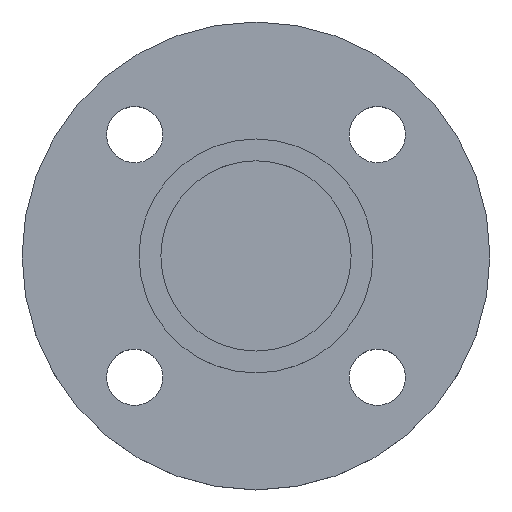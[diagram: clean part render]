
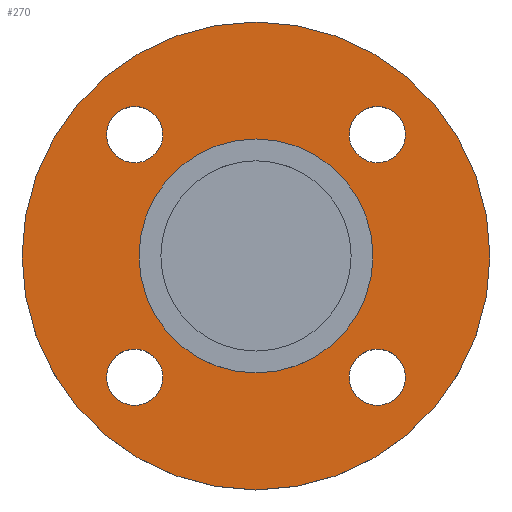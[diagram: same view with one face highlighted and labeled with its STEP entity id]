
A CAD part, top view. The second image highlights one B-rep face of the part: STEP entity #270.
In plain terms, the highlighted planar face has unit normal (0, 0, 1).
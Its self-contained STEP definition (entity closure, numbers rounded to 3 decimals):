
#2 = AXIS2_PLACEMENT_3D ( 'NONE', #412, #413, #415 ) ;
#5 = AXIS2_PLACEMENT_3D ( 'NONE', #389, #390, #391 ) ;
#6 = CIRCLE ( 'NONE', #279, 75. ) ;
#9 = EDGE_CURVE ( 'NONE', #192, #360, #110, .T. ) ;
#13 = EDGE_CURVE ( 'NONE', #283, #317, #21, .T. ) ;
#21 = CIRCLE ( 'NONE', #304, 9. ) ;
#39 = CARTESIAN_POINT ( 'NONE',  ( -38.891, 38.891, -4.5 ) ) ;
#40 = AXIS2_PLACEMENT_3D ( 'NONE', #327, #328, #331 ) ;
#42 = DIRECTION ( 'NONE',  ( 0., 0., -1. ) ) ;
#43 = DIRECTION ( 'NONE',  ( 1., 0., 0. ) ) ;
#49 = CARTESIAN_POINT ( 'NONE',  ( 47.891, -38.891, -4.5 ) ) ;
#50 = EDGE_CURVE ( 'NONE', #360, #192, #161, .T. ) ;
#52 = CARTESIAN_POINT ( 'NONE',  ( 37.5, 0., -4.5 ) ) ;
#60 = CARTESIAN_POINT ( 'NONE',  ( 47.891, 38.891, -4.5 ) ) ;
#70 = EDGE_CURVE ( 'NONE', #236, #217, #180, .T. ) ;
#72 = CARTESIAN_POINT ( 'NONE',  ( -29.891, 38.891, -4.5 ) ) ;
#78 = CARTESIAN_POINT ( 'NONE',  ( 0., 0., -4.5 ) ) ;
#79 = DIRECTION ( 'NONE',  ( 0., 0., -1. ) ) ;
#80 = DIRECTION ( 'NONE',  ( -1., 0., 0. ) ) ;
#93 = CIRCLE ( 'NONE', #40, 9. ) ;
#100 = AXIS2_PLACEMENT_3D ( 'NONE', #39, #42, #43 ) ;
#102 = CIRCLE ( 'NONE', #484, 37.5 ) ;
#107 = AXIS2_PLACEMENT_3D ( 'NONE', #117, #118, #120 ) ;
#108 = CIRCLE ( 'NONE', #100, 9. ) ;
#110 = CIRCLE ( 'NONE', #5, 9. ) ;
#117 = CARTESIAN_POINT ( 'NONE',  ( 0., 0., -4.5 ) ) ;
#118 = DIRECTION ( 'NONE',  ( 0., 0., -1. ) ) ;
#120 = DIRECTION ( 'NONE',  ( -1., 0., 0. ) ) ;
#126 = AXIS2_PLACEMENT_3D ( 'NONE', #480, #496, #497 ) ;
#128 = EDGE_CURVE ( 'NONE', #317, #283, #137, .T. ) ;
#134 = AXIS2_PLACEMENT_3D ( 'NONE', #467, #469, #470 ) ;
#137 = CIRCLE ( 'NONE', #148, 9. ) ;
#139 = AXIS2_PLACEMENT_3D ( 'NONE', #556, #557, #558 ) ;
#148 = AXIS2_PLACEMENT_3D ( 'NONE', #437, #438, #439 ) ;
#152 = AXIS2_PLACEMENT_3D ( 'NONE', #406, #407, #408 ) ;
#161 = CIRCLE ( 'NONE', #152, 9. ) ;
#163 = EDGE_CURVE ( 'NONE', #187, #372, #233, .T. ) ;
#177 = EDGE_CURVE ( 'NONE', #226, #367, #352, .T. ) ;
#179 = VERTEX_POINT ( 'NONE', #501 ) ;
#180 = CIRCLE ( 'NONE', #2, 75. ) ;
#187 = VERTEX_POINT ( 'NONE', #507 ) ;
#192 = VERTEX_POINT ( 'NONE', #514 ) ;
#217 = VERTEX_POINT ( 'NONE', #521 ) ;
#226 = VERTEX_POINT ( 'NONE', #526 ) ;
#233 = CIRCLE ( 'NONE', #134, 9. ) ;
#236 = VERTEX_POINT ( 'NONE', #539 ) ;
#245 = ORIENTED_EDGE ( 'NONE', *, *, #50, .T. ) ;
#246 = ORIENTED_EDGE ( 'NONE', *, *, #355, .T. ) ;
#247 = ORIENTED_EDGE ( 'NONE', *, *, #9, .T. ) ;
#248 = ORIENTED_EDGE ( 'NONE', *, *, #13, .T. ) ;
#249 = ORIENTED_EDGE ( 'NONE', *, *, #128, .T. ) ;
#250 = ORIENTED_EDGE ( 'NONE', *, *, #163, .T. ) ;
#251 = ORIENTED_EDGE ( 'NONE', *, *, #468, .T. ) ;
#253 = ORIENTED_EDGE ( 'NONE', *, *, #177, .T. ) ;
#255 = ORIENTED_EDGE ( 'NONE', *, *, #442, .T. ) ;
#257 = ORIENTED_EDGE ( 'NONE', *, *, #377, .T. ) ;
#258 = ORIENTED_EDGE ( 'NONE', *, *, #70, .F. ) ;
#259 = ORIENTED_EDGE ( 'NONE', *, *, #477, .F. ) ;
#270 = ADVANCED_FACE ( 'NONE', ( #548, #549, #550, #552, #553, #554 ), #555, .T. ) ;
#279 = AXIS2_PLACEMENT_3D ( 'NONE', #333, #336, #342 ) ;
#283 = VERTEX_POINT ( 'NONE', #570 ) ;
#294 = EDGE_LOOP ( 'NONE', ( #251, #253 ) ) ;
#304 = AXIS2_PLACEMENT_3D ( 'NONE', #392, #393, #394 ) ;
#307 = EDGE_LOOP ( 'NONE', ( #258, #259 ) ) ;
#317 = VERTEX_POINT ( 'NONE', #582 ) ;
#320 = EDGE_LOOP ( 'NONE', ( #255, #257 ) ) ;
#326 = EDGE_LOOP ( 'NONE', ( #246, #250 ) ) ;
#327 = CARTESIAN_POINT ( 'NONE',  ( 38.891, 38.891, -4.5 ) ) ;
#328 = DIRECTION ( 'NONE',  ( 0., 0., -1. ) ) ;
#330 = EDGE_LOOP ( 'NONE', ( #248, #249 ) ) ;
#331 = DIRECTION ( 'NONE',  ( 1., 0., 0. ) ) ;
#333 = CARTESIAN_POINT ( 'NONE',  ( 0., 0., -4.5 ) ) ;
#336 = DIRECTION ( 'NONE',  ( 0., 0., -1. ) ) ;
#342 = DIRECTION ( 'NONE',  ( -1., 0., 0. ) ) ;
#352 = CIRCLE ( 'NONE', #126, 9. ) ;
#355 = EDGE_CURVE ( 'NONE', #372, #187, #108, .T. ) ;
#360 = VERTEX_POINT ( 'NONE', #49 ) ;
#363 = VERTEX_POINT ( 'NONE', #52 ) ;
#367 = VERTEX_POINT ( 'NONE', #60 ) ;
#372 = VERTEX_POINT ( 'NONE', #72 ) ;
#373 = EDGE_LOOP ( 'NONE', ( #245, #247 ) ) ;
#377 = EDGE_CURVE ( 'NONE', #363, #179, #102, .T. ) ;
#389 = CARTESIAN_POINT ( 'NONE',  ( 38.891, -38.891, -4.5 ) ) ;
#390 = DIRECTION ( 'NONE',  ( 0., 0., -1. ) ) ;
#391 = DIRECTION ( 'NONE',  ( 1., 0., 0. ) ) ;
#392 = CARTESIAN_POINT ( 'NONE',  ( -38.891, -38.891, -4.5 ) ) ;
#393 = DIRECTION ( 'NONE',  ( 0., 0., -1. ) ) ;
#394 = DIRECTION ( 'NONE',  ( 1., 0., 0. ) ) ;
#406 = CARTESIAN_POINT ( 'NONE',  ( 38.891, -38.891, -4.5 ) ) ;
#407 = DIRECTION ( 'NONE',  ( 0., 0., -1. ) ) ;
#408 = DIRECTION ( 'NONE',  ( 1., 0., 0. ) ) ;
#412 = CARTESIAN_POINT ( 'NONE',  ( 0., 0., -4.5 ) ) ;
#413 = DIRECTION ( 'NONE',  ( 0., 0., -1. ) ) ;
#415 = DIRECTION ( 'NONE',  ( -1., 0., 0. ) ) ;
#437 = CARTESIAN_POINT ( 'NONE',  ( -38.891, -38.891, -4.5 ) ) ;
#438 = DIRECTION ( 'NONE',  ( 0., 0., -1. ) ) ;
#439 = DIRECTION ( 'NONE',  ( 1., 0., 0. ) ) ;
#442 = EDGE_CURVE ( 'NONE', #179, #363, #535, .T. ) ;
#467 = CARTESIAN_POINT ( 'NONE',  ( -38.891, 38.891, -4.5 ) ) ;
#468 = EDGE_CURVE ( 'NONE', #367, #226, #93, .T. ) ;
#469 = DIRECTION ( 'NONE',  ( 0., 0., -1. ) ) ;
#470 = DIRECTION ( 'NONE',  ( 1., 0., 0. ) ) ;
#477 = EDGE_CURVE ( 'NONE', #217, #236, #6, .T. ) ;
#480 = CARTESIAN_POINT ( 'NONE',  ( 38.891, 38.891, -4.5 ) ) ;
#484 = AXIS2_PLACEMENT_3D ( 'NONE', #78, #79, #80 ) ;
#496 = DIRECTION ( 'NONE',  ( 0., 0., -1. ) ) ;
#497 = DIRECTION ( 'NONE',  ( 1., 0., 0. ) ) ;
#501 = CARTESIAN_POINT ( 'NONE',  ( -37.5, 0., -4.5 ) ) ;
#507 = CARTESIAN_POINT ( 'NONE',  ( -47.891, 38.891, -4.5 ) ) ;
#514 = CARTESIAN_POINT ( 'NONE',  ( 29.891, -38.891, -4.5 ) ) ;
#521 = CARTESIAN_POINT ( 'NONE',  ( -75., 0., -4.5 ) ) ;
#526 = CARTESIAN_POINT ( 'NONE',  ( 29.891, 38.891, -4.5 ) ) ;
#535 = CIRCLE ( 'NONE', #107, 37.5 ) ;
#539 = CARTESIAN_POINT ( 'NONE',  ( 75., 0., -4.5 ) ) ;
#548 = FACE_BOUND ( 'NONE', #373, .T. ) ;
#549 = FACE_BOUND ( 'NONE', #330, .T. ) ;
#550 = FACE_BOUND ( 'NONE', #326, .T. ) ;
#552 = FACE_BOUND ( 'NONE', #294, .T. ) ;
#553 = FACE_BOUND ( 'NONE', #320, .T. ) ;
#554 = FACE_OUTER_BOUND ( 'NONE', #307, .T. ) ;
#555 = PLANE ( 'NONE',  #139 ) ;
#556 = CARTESIAN_POINT ( 'NONE',  ( 37.5, 0., -4.5 ) ) ;
#557 = DIRECTION ( 'NONE',  ( 0., 0., 1. ) ) ;
#558 = DIRECTION ( 'NONE',  ( 1., 0., 0. ) ) ;
#570 = CARTESIAN_POINT ( 'NONE',  ( -29.891, -38.891, -4.5 ) ) ;
#582 = CARTESIAN_POINT ( 'NONE',  ( -47.891, -38.891, -4.5 ) ) ;
